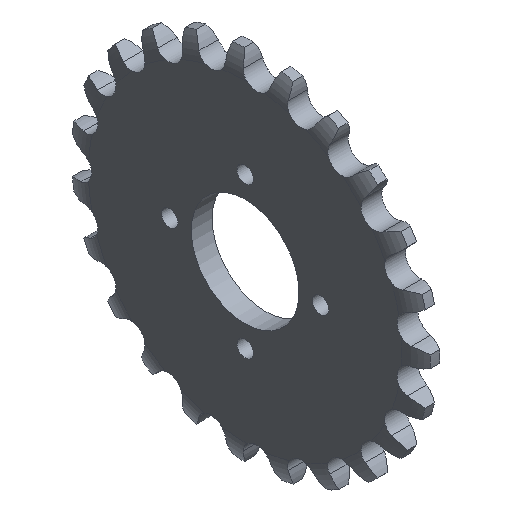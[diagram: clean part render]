
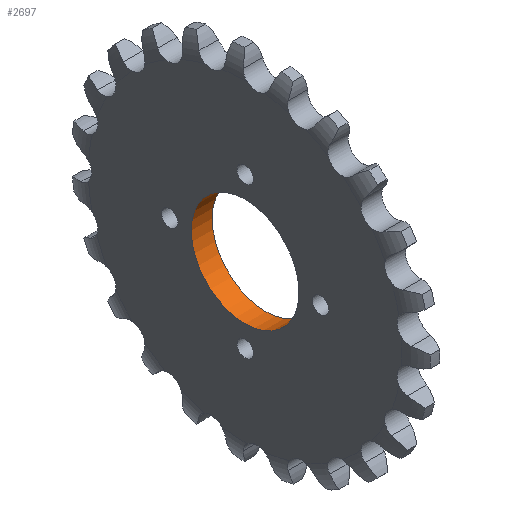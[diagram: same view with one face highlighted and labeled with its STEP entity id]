
A CAD part, isometric view. The second image highlights one B-rep face of the part: STEP entity #2697.
In plain terms, the highlighted cylindrical face has radius 15 mm (diameter 30 mm), a full revolution.
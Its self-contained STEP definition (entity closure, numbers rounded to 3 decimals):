
#446=FACE_BOUND('',#749,.T.);
#589=FACE_OUTER_BOUND('',#748,.T.);
#748=EDGE_LOOP('',(#2454));
#749=EDGE_LOOP('',(#2455));
#802=CIRCLE('',#2824,15.);
#896=CIRCLE('',#2989,15.);
#1170=VERTEX_POINT('',#5434);
#1183=VERTEX_POINT('',#5676);
#1500=EDGE_CURVE('',#1170,#1170,#802,.T.);
#1606=EDGE_CURVE('',#1183,#1183,#896,.T.);
#2454=ORIENTED_EDGE('',*,*,#1606,.T.);
#2455=ORIENTED_EDGE('',*,*,#1500,.F.);
#2552=CYLINDRICAL_SURFACE('',#2993,15.);
#2697=ADVANCED_FACE('',(#589,#446),#2552,.F.);
#2824=AXIS2_PLACEMENT_3D('',#5435,#3330,#3331);
#2989=AXIS2_PLACEMENT_3D('',#5677,#3664,#3665);
#2993=AXIS2_PLACEMENT_3D('',#5681,#3672,#3673);
#3330=DIRECTION('center_axis',(1.,0.,0.));
#3331=DIRECTION('ref_axis',(0.,0.,-1.));
#3664=DIRECTION('center_axis',(1.,0.,0.));
#3665=DIRECTION('ref_axis',(0.,0.,-1.));
#3672=DIRECTION('center_axis',(1.,0.,0.));
#3673=DIRECTION('ref_axis',(0.,1.,0.));
#5434=CARTESIAN_POINT('',(-2.9,15.,0.));
#5435=CARTESIAN_POINT('Origin',(-2.9,0.,0.));
#5676=CARTESIAN_POINT('',(2.9,15.,0.));
#5677=CARTESIAN_POINT('Origin',(2.9,0.,0.));
#5681=CARTESIAN_POINT('Origin',(0.,0.,0.));
